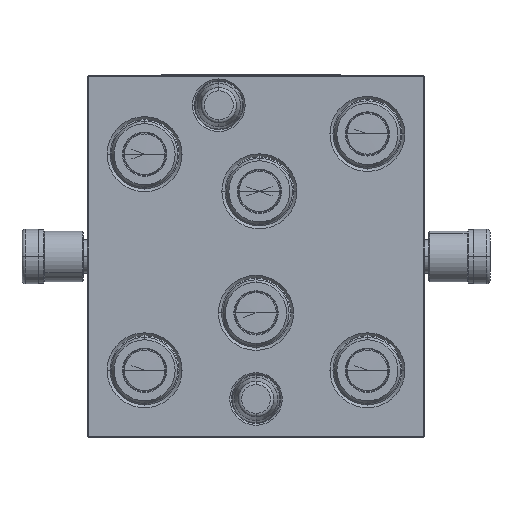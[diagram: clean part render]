
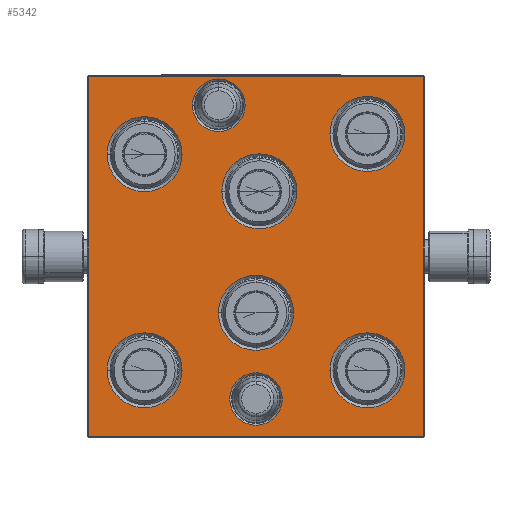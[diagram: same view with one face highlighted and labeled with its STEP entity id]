
A CAD part, front view. The second image highlights one B-rep face of the part: STEP entity #5342.
In plain terms, the highlighted planar face has unit normal (0, -1, 0).
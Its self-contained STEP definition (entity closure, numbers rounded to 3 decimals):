
#1=CARTESIAN_POINT('',(0.,0.,-16.7));
#2=DIRECTION('',(0.,1.,0.));
#3=DIRECTION('',(1.,0.,0.));
#4=AXIS2_PLACEMENT_3D('',#1,#2,#3);
#6=CARTESIAN_POINT('',(0.,0.,-16.7));
#7=DIRECTION('',(0.,1.,0.));
#8=DIRECTION('',(-1.,0.,0.));
#9=AXIS2_PLACEMENT_3D('',#6,#7,#8);
#11=CARTESIAN_POINT('',(1.,0.,19.3));
#12=DIRECTION('',(0.,1.,0.));
#13=DIRECTION('',(1.,0.,0.));
#14=AXIS2_PLACEMENT_3D('',#11,#12,#13);
#16=CARTESIAN_POINT('',(1.,0.,19.3));
#17=DIRECTION('',(0.,1.,0.));
#18=DIRECTION('',(-1.,0.,0.));
#19=AXIS2_PLACEMENT_3D('',#16,#17,#18);
#21=CARTESIAN_POINT('',(-33.,0.,-33.7));
#22=DIRECTION('',(0.,1.,0.));
#23=DIRECTION('',(1.,0.,0.));
#24=AXIS2_PLACEMENT_3D('',#21,#22,#23);
#26=CARTESIAN_POINT('',(-33.,0.,-33.7));
#27=DIRECTION('',(0.,1.,0.));
#28=DIRECTION('',(-1.,0.,0.));
#29=AXIS2_PLACEMENT_3D('',#26,#27,#28);
#31=CARTESIAN_POINT('',(33.,0.,-33.7));
#32=DIRECTION('',(0.,1.,0.));
#33=DIRECTION('',(1.,0.,0.));
#34=AXIS2_PLACEMENT_3D('',#31,#32,#33);
#36=CARTESIAN_POINT('',(33.,0.,-33.7));
#37=DIRECTION('',(0.,1.,0.));
#38=DIRECTION('',(-1.,0.,0.));
#39=AXIS2_PLACEMENT_3D('',#36,#37,#38);
#41=CARTESIAN_POINT('',(-33.,0.,30.3));
#42=DIRECTION('',(0.,1.,0.));
#43=DIRECTION('',(1.,0.,0.));
#44=AXIS2_PLACEMENT_3D('',#41,#42,#43);
#46=CARTESIAN_POINT('',(-33.,0.,30.3));
#47=DIRECTION('',(0.,1.,0.));
#48=DIRECTION('',(-1.,0.,0.));
#49=AXIS2_PLACEMENT_3D('',#46,#47,#48);
#51=CARTESIAN_POINT('',(33.,0.,36.3));
#52=DIRECTION('',(0.,1.,0.));
#53=DIRECTION('',(1.,0.,0.));
#54=AXIS2_PLACEMENT_3D('',#51,#52,#53);
#56=CARTESIAN_POINT('',(33.,0.,36.3));
#57=DIRECTION('',(0.,1.,0.));
#58=DIRECTION('',(-1.,0.,0.));
#59=AXIS2_PLACEMENT_3D('',#56,#57,#58);
#61=CARTESIAN_POINT('',(0.,0.,-42.2));
#62=DIRECTION('',(0.,1.,0.));
#63=DIRECTION('',(1.,0.,0.));
#64=AXIS2_PLACEMENT_3D('',#61,#62,#63);
#66=CARTESIAN_POINT('',(0.,0.,-42.2));
#67=DIRECTION('',(0.,1.,0.));
#68=DIRECTION('',(-1.,0.,0.));
#69=AXIS2_PLACEMENT_3D('',#66,#67,#68);
#71=CARTESIAN_POINT('',(-11.,0.,44.8));
#72=DIRECTION('',(0.,1.,0.));
#73=DIRECTION('',(1.,0.,0.));
#74=AXIS2_PLACEMENT_3D('',#71,#72,#73);
#76=CARTESIAN_POINT('',(-11.,0.,44.8));
#77=DIRECTION('',(0.,1.,0.));
#78=DIRECTION('',(-1.,0.,0.));
#79=AXIS2_PLACEMENT_3D('',#76,#77,#78);
#81=DIRECTION('',(1.,0.,0.));
#82=VECTOR('',#81,99.4);
#83=CARTESIAN_POINT('',(-49.7,0.,-53.2));
#84=LINE('',#83,#82);
#85=DIRECTION('',(0.,0.,-1.));
#86=VECTOR('',#85,106.4);
#87=CARTESIAN_POINT('',(-49.7,0.,53.2));
#88=LINE('',#87,#86);
#89=DIRECTION('',(-1.,0.,0.));
#90=VECTOR('',#89,99.4);
#91=CARTESIAN_POINT('',(49.7,0.,53.2));
#92=LINE('',#91,#90);
#93=DIRECTION('',(0.,0.,1.));
#94=VECTOR('',#93,106.4);
#95=CARTESIAN_POINT('',(49.7,0.,-53.2));
#96=LINE('',#95,#94);
#3771=CARTESIAN_POINT('',(11.1,0.,-16.7));
#3772=CARTESIAN_POINT('',(-11.1,0.,-16.7));
#3773=VERTEX_POINT('',#3771);
#3774=VERTEX_POINT('',#3772);
#3791=CARTESIAN_POINT('',(12.1,0.,19.3));
#3792=CARTESIAN_POINT('',(-10.1,0.,19.3));
#3793=VERTEX_POINT('',#3791);
#3794=VERTEX_POINT('',#3792);
#3811=CARTESIAN_POINT('',(-21.9,0.,-33.7));
#3812=CARTESIAN_POINT('',(-44.1,0.,-33.7));
#3813=VERTEX_POINT('',#3811);
#3814=VERTEX_POINT('',#3812);
#3831=CARTESIAN_POINT('',(44.1,0.,-33.7));
#3832=CARTESIAN_POINT('',(21.9,0.,-33.7));
#3833=VERTEX_POINT('',#3831);
#3834=VERTEX_POINT('',#3832);
#3851=CARTESIAN_POINT('',(-21.9,0.,30.3));
#3852=CARTESIAN_POINT('',(-44.1,0.,30.3));
#3853=VERTEX_POINT('',#3851);
#3854=VERTEX_POINT('',#3852);
#3871=CARTESIAN_POINT('',(44.1,0.,36.3));
#3872=CARTESIAN_POINT('',(21.9,0.,36.3));
#3873=VERTEX_POINT('',#3871);
#3874=VERTEX_POINT('',#3872);
#3883=CARTESIAN_POINT('',(7.777,0.,-42.2));
#3884=CARTESIAN_POINT('',(-7.777,0.,-42.2));
#3885=VERTEX_POINT('',#3883);
#3886=VERTEX_POINT('',#3884);
#3895=CARTESIAN_POINT('',(-3.223,0.,44.8));
#3896=CARTESIAN_POINT('',(-18.777,0.,44.8));
#3897=VERTEX_POINT('',#3895);
#3898=VERTEX_POINT('',#3896);
#3927=CARTESIAN_POINT('',(-49.7,0.,-53.2));
#3928=CARTESIAN_POINT('',(49.7,0.,-53.2));
#3929=VERTEX_POINT('',#3927);
#3930=VERTEX_POINT('',#3928);
#3933=CARTESIAN_POINT('',(49.7,0.,53.2));
#3934=VERTEX_POINT('',#3933);
#3937=CARTESIAN_POINT('',(-49.7,0.,53.2));
#3938=VERTEX_POINT('',#3937);
#5279=CARTESIAN_POINT('',(0.,0.,0.));
#5280=DIRECTION('',(0.,1.,0.));
#5281=DIRECTION('',(1.,0.,0.));
#5282=AXIS2_PLACEMENT_3D('',#5279,#5280,#5281);
#5283=PLANE('',#5282);
#5285=ORIENTED_EDGE('',*,*,#5284,.F.);
#5287=ORIENTED_EDGE('',*,*,#5286,.F.);
#5289=ORIENTED_EDGE('',*,*,#5288,.F.);
#5291=ORIENTED_EDGE('',*,*,#5290,.F.);
#5292=EDGE_LOOP('',(#5285,#5287,#5289,#5291));
#5293=FACE_OUTER_BOUND('',#5292,.F.);
#5295=ORIENTED_EDGE('',*,*,#5294,.F.);
#5297=ORIENTED_EDGE('',*,*,#5296,.F.);
#5298=EDGE_LOOP('',(#5295,#5297));
#5299=FACE_BOUND('',#5298,.F.);
#5301=ORIENTED_EDGE('',*,*,#5300,.F.);
#5303=ORIENTED_EDGE('',*,*,#5302,.F.);
#5304=EDGE_LOOP('',(#5301,#5303));
#5305=FACE_BOUND('',#5304,.F.);
#5307=ORIENTED_EDGE('',*,*,#5306,.F.);
#5309=ORIENTED_EDGE('',*,*,#5308,.F.);
#5310=EDGE_LOOP('',(#5307,#5309));
#5311=FACE_BOUND('',#5310,.F.);
#5313=ORIENTED_EDGE('',*,*,#5312,.F.);
#5315=ORIENTED_EDGE('',*,*,#5314,.F.);
#5316=EDGE_LOOP('',(#5313,#5315));
#5317=FACE_BOUND('',#5316,.F.);
#5319=ORIENTED_EDGE('',*,*,#5318,.F.);
#5321=ORIENTED_EDGE('',*,*,#5320,.F.);
#5322=EDGE_LOOP('',(#5319,#5321));
#5323=FACE_BOUND('',#5322,.F.);
#5325=ORIENTED_EDGE('',*,*,#5324,.F.);
#5327=ORIENTED_EDGE('',*,*,#5326,.F.);
#5328=EDGE_LOOP('',(#5325,#5327));
#5329=FACE_BOUND('',#5328,.F.);
#5331=ORIENTED_EDGE('',*,*,#5330,.F.);
#5333=ORIENTED_EDGE('',*,*,#5332,.F.);
#5334=EDGE_LOOP('',(#5331,#5333));
#5335=FACE_BOUND('',#5334,.F.);
#5337=ORIENTED_EDGE('',*,*,#5336,.F.);
#5339=ORIENTED_EDGE('',*,*,#5338,.F.);
#5340=EDGE_LOOP('',(#5337,#5339));
#5341=FACE_BOUND('',#5340,.F.);
#5=CIRCLE('',#4,11.1);
#10=CIRCLE('',#9,11.1);
#15=CIRCLE('',#14,11.1);
#20=CIRCLE('',#19,11.1);
#25=CIRCLE('',#24,11.1);
#30=CIRCLE('',#29,11.1);
#35=CIRCLE('',#34,11.1);
#40=CIRCLE('',#39,11.1);
#45=CIRCLE('',#44,11.1);
#50=CIRCLE('',#49,11.1);
#55=CIRCLE('',#54,11.1);
#60=CIRCLE('',#59,11.1);
#65=CIRCLE('',#64,7.777);
#70=CIRCLE('',#69,7.777);
#75=CIRCLE('',#74,7.777);
#80=CIRCLE('',#79,7.777);
#5284=EDGE_CURVE('',#3929,#3930,#84,.T.);
#5286=EDGE_CURVE('',#3938,#3929,#88,.T.);
#5288=EDGE_CURVE('',#3934,#3938,#92,.T.);
#5290=EDGE_CURVE('',#3930,#3934,#96,.T.);
#5294=EDGE_CURVE('',#3793,#3794,#15,.T.);
#5296=EDGE_CURVE('',#3794,#3793,#20,.T.);
#5300=EDGE_CURVE('',#3813,#3814,#25,.T.);
#5302=EDGE_CURVE('',#3814,#3813,#30,.T.);
#5306=EDGE_CURVE('',#3833,#3834,#35,.T.);
#5308=EDGE_CURVE('',#3834,#3833,#40,.T.);
#5312=EDGE_CURVE('',#3853,#3854,#45,.T.);
#5314=EDGE_CURVE('',#3854,#3853,#50,.T.);
#5318=EDGE_CURVE('',#3873,#3874,#55,.T.);
#5320=EDGE_CURVE('',#3874,#3873,#60,.T.);
#5324=EDGE_CURVE('',#3885,#3886,#65,.T.);
#5326=EDGE_CURVE('',#3886,#3885,#70,.T.);
#5330=EDGE_CURVE('',#3897,#3898,#75,.T.);
#5332=EDGE_CURVE('',#3898,#3897,#80,.T.);
#5336=EDGE_CURVE('',#3773,#3774,#5,.T.);
#5338=EDGE_CURVE('',#3774,#3773,#10,.T.);
#5342=ADVANCED_FACE('',(#5293,#5299,#5305,#5311,#5317,#5323,#5329,#5335,#5341),
#5283,.F.);
